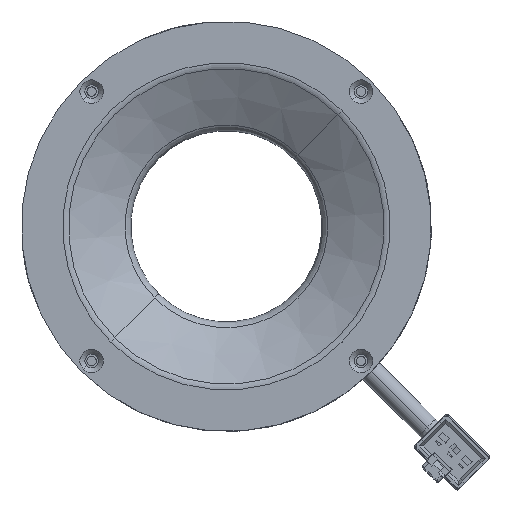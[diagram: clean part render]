
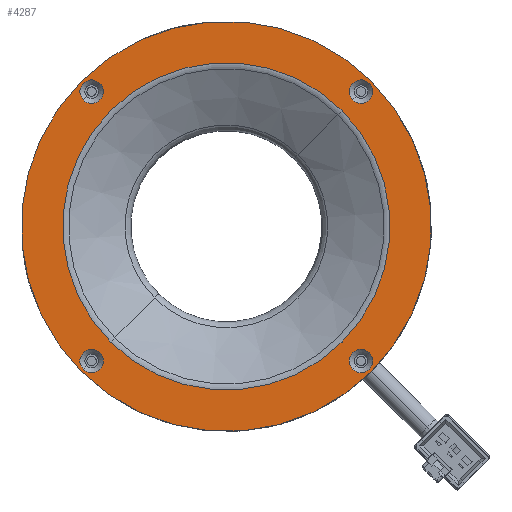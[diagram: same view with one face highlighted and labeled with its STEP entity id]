
A CAD part, front view. The second image highlights one B-rep face of the part: STEP entity #4287.
In plain terms, the highlighted planar face has unit normal (0, -1, 0).
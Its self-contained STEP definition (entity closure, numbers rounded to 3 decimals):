
#11 = CARTESIAN_POINT ( 'NONE',  ( 24.749, -21.5, 24.749 ) ) ;
#92 = VERTEX_POINT ( 'NONE', #7258 ) ;
#125 = CARTESIAN_POINT ( 'NONE',  ( 22.981, -21.5, 22.981 ) ) ;
#164 = AXIS2_PLACEMENT_3D ( 'NONE', #9581, #1480, #1411 ) ;
#254 = VERTEX_POINT ( 'NONE', #2786 ) ;
#354 = DIRECTION ( 'NONE',  ( 0., -1., 0. ) ) ;
#398 = CARTESIAN_POINT ( 'NONE',  ( 24.395, -21.5, -21.567 ) ) ;
#469 = CARTESIAN_POINT ( 'NONE',  ( -22.981, -21.5, 22.981 ) ) ;
#514 = ORIENTED_EDGE ( 'NONE', *, *, #845, .F. ) ;
#719 = ORIENTED_EDGE ( 'NONE', *, *, #9320, .F. ) ;
#808 = FACE_BOUND ( 'NONE', #8452, .T. ) ;
#822 = ORIENTED_EDGE ( 'NONE', *, *, #9267, .F. ) ;
#845 = EDGE_CURVE ( 'NONE', #1039, #92, #7586, .T. ) ;
#923 = CARTESIAN_POINT ( 'NONE',  ( 24.395, -21.5, 24.395 ) ) ;
#948 = DIRECTION ( 'NONE',  ( -0.707, 0., -0.707 ) ) ;
#1039 = VERTEX_POINT ( 'NONE', #8251 ) ;
#1181 = CARTESIAN_POINT ( 'NONE',  ( -21.567, -21.5, -21.567 ) ) ;
#1346 = VERTEX_POINT ( 'NONE', #1181 ) ;
#1411 = DIRECTION ( 'NONE',  ( -0.707, 0., -0.707 ) ) ;
#1480 = DIRECTION ( 'NONE',  ( 0., -1., 0. ) ) ;
#1869 = CARTESIAN_POINT ( 'NONE',  ( -22.981, -21.5, 22.981 ) ) ;
#2066 = DIRECTION ( 'NONE',  ( 0., 1., 0. ) ) ;
#2087 = EDGE_CURVE ( 'NONE', #4833, #8160, #8749, .T. ) ;
#2226 = AXIS2_PLACEMENT_3D ( 'NONE', #125, #9851, #5739 ) ;
#2282 = PLANE ( 'NONE',  #164 ) ;
#2435 = CIRCLE ( 'NONE', #7883, 2. ) ;
#2534 = CARTESIAN_POINT ( 'NONE',  ( 21.567, -21.5, 21.567 ) ) ;
#2536 = DIRECTION ( 'NONE',  ( 0., 1., 0. ) ) ;
#2566 = DIRECTION ( 'NONE',  ( 0., -1., 0. ) ) ;
#2749 = CIRCLE ( 'NONE', #9497, 2. ) ;
#2786 = CARTESIAN_POINT ( 'NONE',  ( -24.395, -21.5, -24.395 ) ) ;
#3000 = VERTEX_POINT ( 'NONE', #923 ) ;
#3162 = EDGE_LOOP ( 'NONE', ( #822, #9003 ) ) ;
#3672 = DIRECTION ( 'NONE',  ( 0.707, 0., 0.707 ) ) ;
#3679 = ORIENTED_EDGE ( 'NONE', *, *, #8362, .F. ) ;
#3746 = FACE_BOUND ( 'NONE', #8905, .T. ) ;
#3770 = CARTESIAN_POINT ( 'NONE',  ( 0., -21.5, 0. ) ) ;
#3797 = VERTEX_POINT ( 'NONE', #7674 ) ;
#3801 = EDGE_LOOP ( 'NONE', ( #5350, #6000 ) ) ;
#3808 = DIRECTION ( 'NONE',  ( 0.707, 0., 0.707 ) ) ;
#3855 = CIRCLE ( 'NONE', #2226, 2. ) ;
#3858 = DIRECTION ( 'NONE',  ( 0., -1., 0. ) ) ;
#3893 = VERTEX_POINT ( 'NONE', #6221 ) ;
#4103 = CIRCLE ( 'NONE', #10083, 2. ) ;
#4122 = EDGE_LOOP ( 'NONE', ( #514, #719 ) ) ;
#4140 = EDGE_CURVE ( 'NONE', #8160, #4833, #6292, .T. ) ;
#4161 = EDGE_CURVE ( 'NONE', #5051, #3797, #4103, .T. ) ;
#4195 = AXIS2_PLACEMENT_3D ( 'NONE', #10237, #6260, #8687 ) ;
#4286 = CARTESIAN_POINT ( 'NONE',  ( -24.749, -21.5, -24.749 ) ) ;
#4287 = ADVANCED_FACE ( 'NONE', ( #5396, #7806, #5751, #808, #3746, #7056 ), #2282, .T. ) ;
#4474 = EDGE_CURVE ( 'NONE', #3797, #5051, #2435, .T. ) ;
#4502 = EDGE_CURVE ( 'NONE', #3000, #8778, #3855, .T. ) ;
#4560 = AXIS2_PLACEMENT_3D ( 'NONE', #7256, #7289, #6495 ) ;
#4722 = VERTEX_POINT ( 'NONE', #6218 ) ;
#4735 = CARTESIAN_POINT ( 'NONE',  ( 22.981, -21.5, 22.981 ) ) ;
#4833 = VERTEX_POINT ( 'NONE', #11 ) ;
#4985 = AXIS2_PLACEMENT_3D ( 'NONE', #9048, #2536, #6533 ) ;
#5051 = VERTEX_POINT ( 'NONE', #398 ) ;
#5078 = DIRECTION ( 'NONE',  ( -0.707, 0., -0.707 ) ) ;
#5082 = ORIENTED_EDGE ( 'NONE', *, *, #4502, .F. ) ;
#5174 = CIRCLE ( 'NONE', #4560, 2. ) ;
#5177 = CARTESIAN_POINT ( 'NONE',  ( -22.981, -21.5, -22.981 ) ) ;
#5207 = DIRECTION ( 'NONE',  ( 0., -1., 0. ) ) ;
#5305 = CARTESIAN_POINT ( 'NONE',  ( 22.981, -21.5, -22.981 ) ) ;
#5343 = DIRECTION ( 'NONE',  ( -0.707, 0., -0.707 ) ) ;
#5350 = ORIENTED_EDGE ( 'NONE', *, *, #2087, .F. ) ;
#5396 = FACE_BOUND ( 'NONE', #10468, .T. ) ;
#5704 = ORIENTED_EDGE ( 'NONE', *, *, #4474, .F. ) ;
#5739 = DIRECTION ( 'NONE',  ( -0.707, 0., -0.707 ) ) ;
#5751 = FACE_BOUND ( 'NONE', #4122, .T. ) ;
#5968 = AXIS2_PLACEMENT_3D ( 'NONE', #469, #3858, #9587 ) ;
#6000 = ORIENTED_EDGE ( 'NONE', *, *, #4140, .F. ) ;
#6160 = CARTESIAN_POINT ( 'NONE',  ( 0., -21.5, 0. ) ) ;
#6218 = CARTESIAN_POINT ( 'NONE',  ( -19.746, -21.5, -19.746 ) ) ;
#6221 = CARTESIAN_POINT ( 'NONE',  ( 19.746, -21.5, 19.746 ) ) ;
#6260 = DIRECTION ( 'NONE',  ( 0., 1., 0. ) ) ;
#6292 = CIRCLE ( 'NONE', #8212, 35. ) ;
#6495 = DIRECTION ( 'NONE',  ( -0.707, 0., -0.707 ) ) ;
#6533 = DIRECTION ( 'NONE',  ( 0.707, 0., 0.707 ) ) ;
#6575 = CIRCLE ( 'NONE', #7609, 2. ) ;
#6594 = ORIENTED_EDGE ( 'NONE', *, *, #9919, .T. ) ;
#6612 = DIRECTION ( 'NONE',  ( 0., -1., 0. ) ) ;
#7056 = FACE_OUTER_BOUND ( 'NONE', #3801, .T. ) ;
#7256 = CARTESIAN_POINT ( 'NONE',  ( -22.981, -21.5, -22.981 ) ) ;
#7258 = CARTESIAN_POINT ( 'NONE',  ( -21.567, -21.5, 24.395 ) ) ;
#7289 = DIRECTION ( 'NONE',  ( 0., -1., 0. ) ) ;
#7393 = AXIS2_PLACEMENT_3D ( 'NONE', #4735, #5207, #5078 ) ;
#7586 = CIRCLE ( 'NONE', #5968, 2. ) ;
#7587 = DIRECTION ( 'NONE',  ( 0., -1., 0. ) ) ;
#7609 = AXIS2_PLACEMENT_3D ( 'NONE', #1869, #2566, #9112 ) ;
#7674 = CARTESIAN_POINT ( 'NONE',  ( 21.567, -21.5, -24.395 ) ) ;
#7806 = FACE_BOUND ( 'NONE', #3162, .T. ) ;
#7850 = DIRECTION ( 'NONE',  ( 0., 1., 0. ) ) ;
#7883 = AXIS2_PLACEMENT_3D ( 'NONE', #9162, #6612, #948 ) ;
#8058 = EDGE_CURVE ( 'NONE', #3893, #4722, #8792, .T. ) ;
#8160 = VERTEX_POINT ( 'NONE', #4286 ) ;
#8212 = AXIS2_PLACEMENT_3D ( 'NONE', #6160, #2066, #3672 ) ;
#8251 = CARTESIAN_POINT ( 'NONE',  ( -24.395, -21.5, 21.567 ) ) ;
#8362 = EDGE_CURVE ( 'NONE', #8778, #3000, #8367, .T. ) ;
#8367 = CIRCLE ( 'NONE', #7393, 2. ) ;
#8421 = DIRECTION ( 'NONE',  ( -0.707, 0., -0.707 ) ) ;
#8452 = EDGE_LOOP ( 'NONE', ( #3679, #5082 ) ) ;
#8687 = DIRECTION ( 'NONE',  ( 0.707, 0., 0.707 ) ) ;
#8749 = CIRCLE ( 'NONE', #4985, 35. ) ;
#8778 = VERTEX_POINT ( 'NONE', #2534 ) ;
#8792 = CIRCLE ( 'NONE', #9812, 27.924 ) ;
#8905 = EDGE_LOOP ( 'NONE', ( #9523, #6594 ) ) ;
#9003 = ORIENTED_EDGE ( 'NONE', *, *, #9170, .F. ) ;
#9048 = CARTESIAN_POINT ( 'NONE',  ( 0., -21.5, 0. ) ) ;
#9112 = DIRECTION ( 'NONE',  ( -0.707, 0., -0.707 ) ) ;
#9162 = CARTESIAN_POINT ( 'NONE',  ( 22.981, -21.5, -22.981 ) ) ;
#9170 = EDGE_CURVE ( 'NONE', #1346, #254, #5174, .T. ) ;
#9267 = EDGE_CURVE ( 'NONE', #254, #1346, #2749, .T. ) ;
#9320 = EDGE_CURVE ( 'NONE', #92, #1039, #6575, .T. ) ;
#9497 = AXIS2_PLACEMENT_3D ( 'NONE', #5177, #7587, #8421 ) ;
#9523 = ORIENTED_EDGE ( 'NONE', *, *, #8058, .T. ) ;
#9581 = CARTESIAN_POINT ( 'NONE',  ( 24.749, -21.5, 24.749 ) ) ;
#9587 = DIRECTION ( 'NONE',  ( -0.707, 0., -0.707 ) ) ;
#9662 = CIRCLE ( 'NONE', #4195, 27.924 ) ;
#9801 = ORIENTED_EDGE ( 'NONE', *, *, #4161, .F. ) ;
#9812 = AXIS2_PLACEMENT_3D ( 'NONE', #3770, #7850, #3808 ) ;
#9851 = DIRECTION ( 'NONE',  ( 0., -1., 0. ) ) ;
#9919 = EDGE_CURVE ( 'NONE', #4722, #3893, #9662, .T. ) ;
#10083 = AXIS2_PLACEMENT_3D ( 'NONE', #5305, #354, #5343 ) ;
#10237 = CARTESIAN_POINT ( 'NONE',  ( 0., -21.5, 0. ) ) ;
#10468 = EDGE_LOOP ( 'NONE', ( #5704, #9801 ) ) ;
